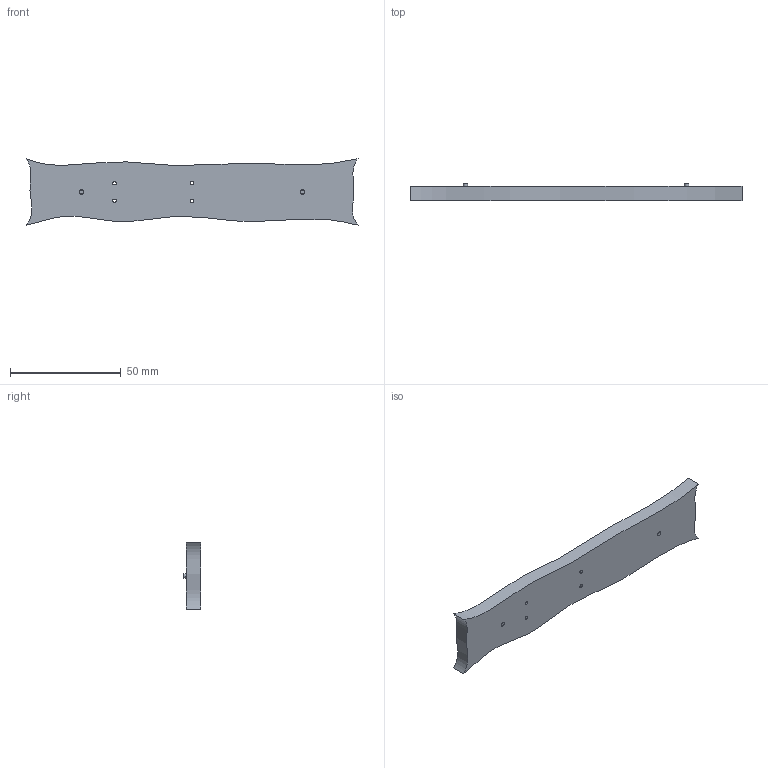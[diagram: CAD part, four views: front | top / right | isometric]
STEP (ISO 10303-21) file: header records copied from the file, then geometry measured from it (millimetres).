
FILE_DESCRIPTION (( 'STEP AP214' ), '1' );
FILE_NAME ('FP-NS-180 Mounting Pattern.STEP', '2025-07-29T17:46:49', ( '' ), ( '' ), 'SwSTEP 2.0', 'SolidWorks 2023', '' );
FILE_SCHEMA (( 'AUTOMOTIVE_DESIGN' ));
Length unit declared in the file: inch
Products named in the file (1): FP-NS-180 Mounting Pattern
Bounding box: 150 x 8 x 30 mm (x, y, z)
Volume: 23812.5 mm3; surface area: 9847.3 mm2
Topology: 1 solids, 1 shells, 34 faces, 80 edges, 52 vertices
Faces by surface type: cylinder 16, cone 8, plane 6, bspline 4
Entity records: 1099 total; most frequent: CARTESIAN_POINT 255, DIRECTION 178, ORIENTED_EDGE 160, EDGE_CURVE 80, AXIS2_PLACEMENT_3D 75, VERTEX_POINT 52, EDGE_LOOP 46, CIRCLE 44
